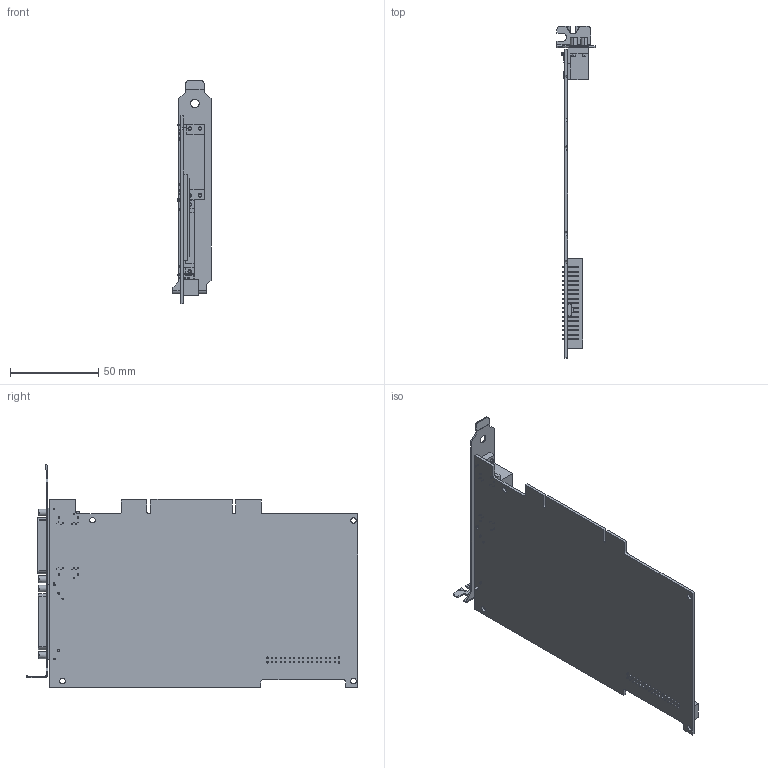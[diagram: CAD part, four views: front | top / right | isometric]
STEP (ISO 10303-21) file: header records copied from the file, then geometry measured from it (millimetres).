
FILE_DESCRIPTION((''),'2;1');
FILE_NAME('CU_PCI-7831R_7833R','2011-08-09T',('dkendric'),(''),'PRO/ENGINEER BY PARAMETRIC TECHNOLOGY CORPORATION, 2010230','PRO/ENGINEER BY PARAMETRIC TECHNOLOGY CORPORATION, 2010230','');
FILE_SCHEMA(('CONFIG_CONTROL_DESIGN'));
Length unit declared in the file: inch
Products named in the file (1): CU_PCI-7831R_7833R
Bounding box: 21.59 x 187.77 x 126.21 mm (x, y, z)
Volume: 42618.4 mm3; surface area: 47957.8 mm2
Topology: 1 solids, 1 shells, 1078 faces, 2911 edges, 1914 vertices
Faces by surface type: plane 808, cylinder 250, cone 12, bspline 4, torus 4
Entity records: 33954 total; most frequent: CARTESIAN_POINT 6029, ORIENTED_EDGE 5822, DIRECTION 5616, EDGE_CURVE 2911, VECTOR 2338, LINE 2338, VERTEX_POINT 1914, AXIS2_PLACEMENT_3D 1639
